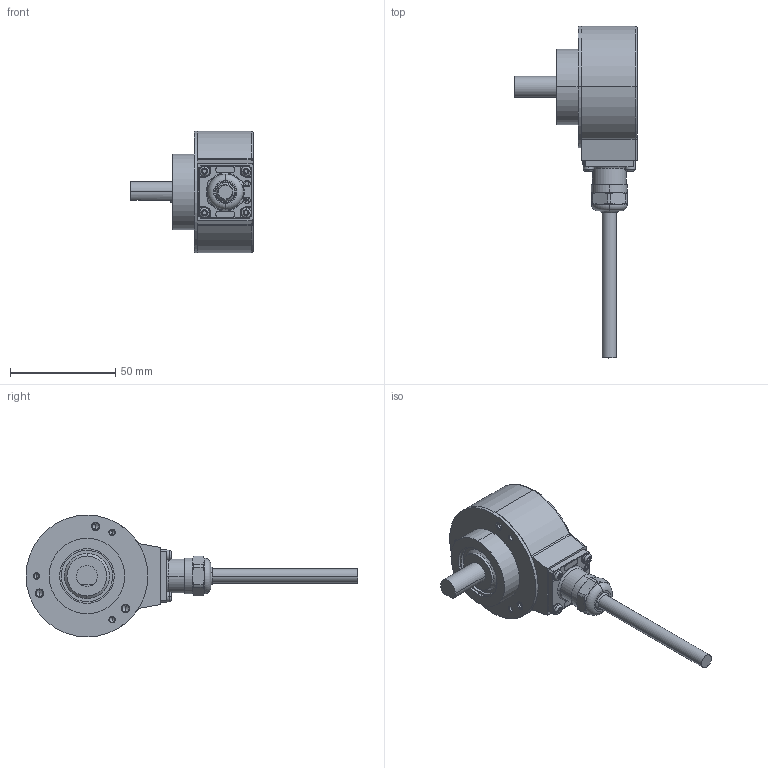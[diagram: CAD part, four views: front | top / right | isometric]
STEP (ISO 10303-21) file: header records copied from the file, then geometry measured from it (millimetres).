
FILE_DESCRIPTION (( 'STEP AP203' ), '1' );
FILE_NAME ('K58I.OXX.XXXXX.XS1C510.6XR11.XXXX.step', '2025-12-08T15:12:07', ( '' ), ( '' ), 'SwSTEP 2.0', 'SolidWorks 2021', '' );
FILE_SCHEMA (( 'CONFIG_CONTROL_DESIGN' ));
Length unit declared in the file: millimetre
Products named in the file (1): K58I.OXX.XXXXX.XS1C510.6XR11.XXXX
Bounding box: 58.19 x 158 x 58 mm (x, y, z)
Volume: 130528 mm3; surface area: 36433.7 mm2
Topology: 9 solids, 9 shells, 532 faces, 1309 edges, 814 vertices
Faces by surface type: cylinder 241, plane 139, cone 58, bspline 40, torus 38, sphere 16
Entity records: 17562 total; most frequent: CARTESIAN_POINT 4966, DIRECTION 2717, ORIENTED_EDGE 2594, EDGE_CURVE 1297, AXIS2_PLACEMENT_3D 1089, VERTEX_POINT 814, CIRCLE 596, EDGE_LOOP 579
